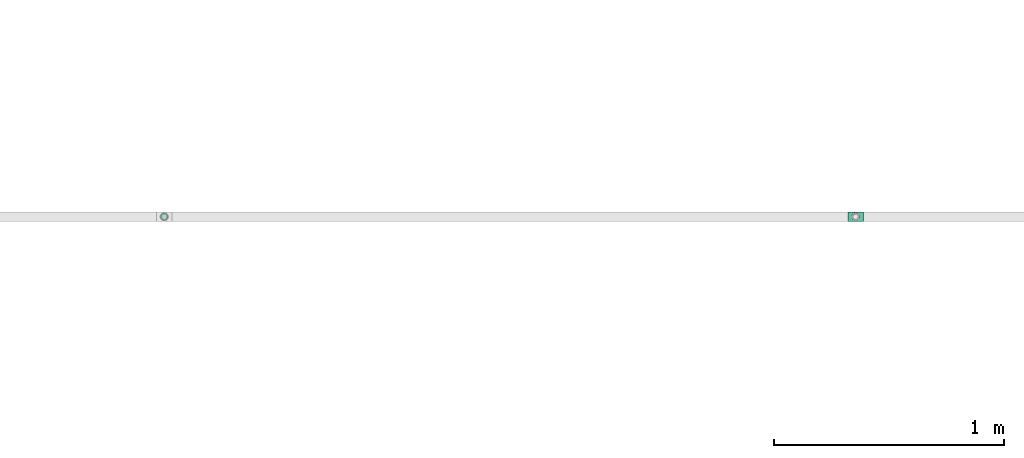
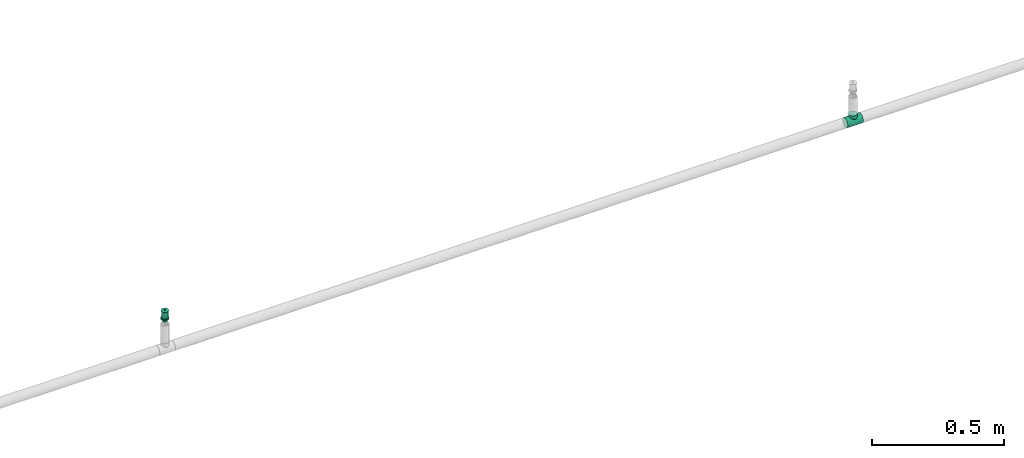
# One storey, part 51 of 94: 1 flow fitting, 1 flow terminal.
"""IFC2X3 building model written with IfcOpenShell, lengths in millimetres."""

from ifc_helpers import new_model, entity, si_unit, converted_unit, derived_unit, direction, frame, origin_with_axes, place, context, subcontext, project, spatial, open_shell, surface_model, source, transform, mapped, type_object, element, save


model = new_model("IFC2X3")

# Units and contexts
model_context = context("Model", 3, precision=0.01, world=frame((0.0, 4.29681676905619e-09, 0.0)), true_north=direction((4.01073788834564e-13, 1.0)))
plan_context = context("Plan", 3, precision=0.01, world=frame((0.0, 4.29681676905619e-09, 0.0)), true_north=direction((4.01073788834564e-13, 1.0)))
body_context = subcontext(model_context, "Body", "Model", "MODEL_VIEW")
ifc_project = project(units=[converted_unit("PLANEANGLEUNIT", "DEGREE", entity("IfcPositiveLengthMeasure", 0.0174532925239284), si_unit("PLANEANGLEUNIT", "RADIAN"), dimensions=[0, 0, 0, 0, 0, 0, 0]), si_unit("AREAUNIT", "SQUARE_METRE"), si_unit("LENGTHUNIT", "METRE", prefix="MILLI"), si_unit("MASSUNIT", "GRAM", prefix="KILO"), si_unit("POWERUNIT", "WATT"), si_unit("PRESSUREUNIT", "PASCAL"), si_unit("FORCEUNIT", "NEWTON", prefix="KILO"), si_unit("ELECTRICCURRENTUNIT", "AMPERE"), si_unit("THERMODYNAMICTEMPERATUREUNIT", "DEGREE_CELSIUS"), si_unit("TIMEUNIT", "SECOND"), si_unit("VOLUMEUNIT", "CUBIC_METRE"), derived_unit("LINEARVELOCITYUNIT", [(si_unit("LENGTHUNIT", "METRE"), 1), (si_unit("TIMEUNIT", "SECOND"), -1)]), derived_unit("VOLUMETRICFLOWRATEUNIT", [(si_unit("VOLUMEUNIT", "CUBIC_METRE"), 1), (si_unit("TIMEUNIT", "SECOND"), -1)]), derived_unit("THERMALTRANSMITTANCEUNIT", [(si_unit("POWERUNIT", "WATT"), 1), (si_unit("THERMODYNAMICTEMPERATUREUNIT", "KELVIN"), -1), (si_unit("AREAUNIT", "SQUARE_METRE"), -1)])], contexts=[model_context, plan_context])

# Site, building, storey
site_placement = place(None, frame((0.0, -4.29681676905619e-09, 0.0), z_axis=(0.0, 0.0, 1.0), x_axis=(1.0, 0.0, 0.0)))
site = spatial("IfcSite", under=ifc_project, at=site_placement, CompositionType="ELEMENT")
building_placement = place(site_placement, frame((0.0, 4.29681676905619e-09, 0.0), z_axis=(0.0, 0.0, 1.0), x_axis=(1.0, 0.0, 0.0)))
building = spatial("IfcBuilding", under=site, at=building_placement, Name="mc-building", CompositionType="ELEMENT")
storey_placement = place(building_placement, frame((0.0, 0.0, 200300.0), z_axis=(0.0, 0.0, 1.0), x_axis=(1.0, 0.0, 0.0)))
storey = spatial("IfcBuildingStorey", under=building, at=storey_placement, Name="Nivå C", CompositionType="ELEMENT", Elevation=200300.0)

# Flow fitting
pipe_fitting_type = type_object("IfcPipeFittingType", Name="magi_pipe_fe_tee_centric_90_NOR", PredefinedType="JUNCTION")
shared_shape_1 = source(origin_with_axes(), body_context, "Body", "SurfaceModel", [
    surface_model("IfcShellBasedSurfaceModel", [(-33.8, 0.0, -21.2), (-33.8, -5.48696, -20.47763), (-33.8, 5.48696, -20.47763), (-33.8, 10.6, -18.35974), (-33.8, 14.99066, -14.99066), (-33.8, -20.47763, 5.48696), (-33.8, 18.35974, -10.6), (-33.8, 10.6, 18.35974), (-33.8, -14.99066, -14.99066), (-33.8, -18.35974, -10.6), (-33.8, -10.6, -18.35974), (-33.8, -20.47763, -5.48696), (-33.8, -21.2, 0.0), (-33.8, 18.35974, 10.6), (-33.8, 20.47763, -5.48696), (-33.8, 20.47763, 5.48696), (-33.8, 21.2, 0.0), (-33.8, 14.99066, 14.99066), (-33.8, 5.48696, 20.47763), (-33.8, 0.0, 21.2), (-33.8, -18.35974, 10.6), (-33.8, -14.99066, 14.99066), (-33.8, -10.6, 18.35974), (-33.8, -5.48696, 20.47763), (33.8, 5.48696, -20.47763), (33.8, -5.48696, -20.47763), (33.8, 0.0, -21.2), (33.8, 14.99066, -14.99066), (33.8, 10.6, -18.35974), (33.8, 18.35974, -10.6), (33.8, 20.47763, -5.48696), (33.8, -21.2, 0.0), (33.8, -10.6, -18.35974), (33.8, -18.35974, -10.6), (33.8, -14.99066, -14.99066), (33.8, -20.47763, -5.48696), (33.8, -20.47763, 5.48696), (33.8, 21.2, 0.0), (33.8, 20.47763, 5.48696), (33.8, 18.35974, 10.6), (33.8, 10.6, 18.35974), (33.8, 14.99066, 14.99066), (33.8, 0.0, 21.2), (33.8, 5.48696, 20.47763), (33.8, -14.99066, 14.99066), (33.8, -18.35974, 10.6), (33.8, -10.6, 18.35974), (33.8, -5.48696, 20.47763), (16.9, -21.2, 0.0), (15.78624, -20.32327, 6.03364), (12.81343, -18.11115, 11.01935), (8.52479, -15.37862, 14.59239), (3.07939, -13.16482, 16.61708), (-16.9, -21.2, 0.0), (-15.78686, -20.32375, 6.032), (-8.52604, -15.37932, 14.59166), (-3.0848, -13.16609, 16.61608), (-12.81602, -18.11299, 11.01634), (3.07939, -13.16482, -16.61708), (12.81343, -18.11115, -11.01935), (8.52479, -15.37862, -14.59239), (15.78624, -20.32327, -6.03364), (-3.0848, -13.16609, -16.61608), (-8.52604, -15.37932, -14.59166), (-12.81602, -18.11299, -11.01634), (-15.78686, -20.32375, -6.032), (4.37404, -31.8, -16.32415), (-16.9, -31.8, 0.0), (0.0, -31.8, -16.9), (14.63583, -31.8, -8.45), (8.45, -31.8, -14.63583), (16.32415, -31.8, -4.37404), (11.9501, -31.8, -11.9501), (-11.9501, -31.8, -11.9501), (-8.45, -31.8, -14.63583), (-4.37404, -31.8, -16.32415), (-14.63583, -31.8, -8.45), (-16.32415, -31.8, -4.37404), (16.9, -31.8, 0.0), (8.45, -31.8, 14.63583), (16.32415, -31.8, 4.37404), (14.63583, -31.8, 8.45), (-8.45, -31.8, 14.63583), (11.9501, -31.8, 11.9501), (4.37404, -31.8, 16.32415), (-16.32415, -31.8, 4.37404), (-11.9501, -31.8, 11.9501), (-14.63583, -31.8, 8.45), (0.0, -31.8, 16.9), (-4.37404, -31.8, 16.32415), (-16.34343, -20.76188, 3.016), (16.34312, -20.76163, 3.01682), (-0.00271, -13.16546, 16.61658), (16.34312, -20.76163, -3.01682), (-0.00271, -13.16546, -16.61658), (-16.34343, -20.76188, -3.016)], [open_shell([[[0, 1, 2]], [[3, 2, 4]], [[5, 2, 1]], [[4, 2, 6]], [[6, 2, 7]], [[8, 9, 10]], [[1, 10, 9]], [[9, 11, 1]], [[12, 1, 11]], [[5, 1, 12]], [[13, 14, 6]], [[13, 15, 16]], [[6, 7, 13]], [[5, 7, 2]], [[17, 13, 7]], [[18, 7, 19]], [[20, 21, 5]], [[22, 5, 21]], [[23, 19, 22]], [[7, 5, 22]], [[22, 19, 7]], [[16, 14, 13]], [[24, 25, 26]], [[27, 24, 28]], [[29, 30, 24]], [[29, 24, 27]], [[31, 24, 30]], [[32, 33, 34]], [[33, 32, 25]], [[33, 31, 35]], [[31, 33, 25]], [[25, 24, 31]], [[30, 36, 31]], [[37, 38, 39]], [[37, 39, 40]], [[37, 40, 36]], [[40, 39, 41]], [[42, 40, 43]], [[36, 44, 45]], [[44, 36, 46]], [[46, 42, 47]], [[46, 36, 40]], [[40, 42, 46]], [[37, 36, 30]], [[31, 36, 48]], [[49, 48, 36]], [[36, 45, 49]], [[45, 44, 50]], [[51, 50, 44]], [[52, 51, 44]], [[44, 46, 52]], [[45, 50, 49]], [[53, 54, 5]], [[5, 12, 53]], [[54, 20, 5]], [[55, 56, 21]], [[20, 57, 21]], [[57, 20, 54]], [[21, 57, 55]], [[56, 22, 21]], [[52, 22, 56]], [[19, 47, 42]], [[23, 46, 47]], [[18, 42, 43]], [[39, 38, 15]], [[17, 40, 41]], [[13, 41, 39]], [[43, 40, 7]], [[16, 38, 37]], [[22, 46, 23]], [[23, 47, 19]], [[18, 19, 42]], [[43, 7, 18]], [[7, 40, 17]], [[13, 17, 41]], [[15, 13, 39]], [[38, 16, 15]], [[46, 22, 52]], [[6, 30, 29]], [[14, 37, 30]], [[4, 29, 27]], [[26, 25, 1]], [[2, 28, 24]], [[0, 24, 26]], [[27, 28, 3]], [[10, 25, 32]], [[16, 37, 14]], [[14, 30, 6]], [[4, 6, 29]], [[27, 3, 4]], [[3, 28, 2]], [[0, 2, 24]], [[1, 0, 26]], [[25, 10, 1]], [[32, 58, 10]], [[34, 59, 60]], [[59, 34, 33]], [[60, 58, 34]], [[34, 58, 32]], [[35, 31, 48]], [[35, 61, 33]], [[61, 35, 48]], [[33, 61, 59]], [[62, 63, 8]], [[8, 64, 9]], [[64, 8, 63]], [[62, 8, 10]], [[65, 53, 11]], [[65, 11, 9]], [[11, 53, 12]], [[65, 9, 64]], [[58, 62, 10]], [[66, 67, 68]], [[69, 66, 70]], [[69, 71, 66]], [[69, 70, 72]], [[67, 66, 71]], [[68, 73, 74]], [[74, 75, 68]], [[76, 67, 77]], [[73, 68, 76]], [[67, 76, 68]], [[71, 78, 67]], [[79, 78, 80]], [[79, 80, 81]], [[82, 67, 79]], [[79, 81, 83]], [[82, 79, 84]], [[85, 86, 87]], [[86, 85, 82]], [[82, 88, 89]], [[85, 67, 82]], [[84, 88, 82]], [[79, 67, 78]], [[85, 90, 67]], [[57, 87, 86]], [[85, 87, 54]], [[86, 82, 55]], [[85, 54, 90]], [[90, 53, 67]], [[54, 87, 57]], [[91, 49, 80]], [[55, 89, 56]], [[55, 57, 86]], [[88, 52, 92]], [[55, 82, 89]], [[52, 88, 84]], [[79, 51, 84]], [[50, 83, 81]], [[83, 51, 79]], [[81, 80, 49]], [[83, 50, 51]], [[51, 52, 84]], [[78, 91, 80]], [[49, 50, 81]], [[91, 78, 48]], [[88, 56, 89]], [[92, 56, 88]], [[71, 93, 78]], [[59, 69, 72]], [[71, 69, 61]], [[72, 70, 60]], [[93, 48, 78]], [[61, 69, 59]], [[60, 66, 58]], [[60, 59, 72]], [[68, 62, 94]], [[60, 70, 66]], [[95, 67, 53]], [[95, 65, 77]], [[71, 61, 93]], [[75, 62, 68]], [[65, 76, 77]], [[73, 76, 64]], [[68, 58, 66]], [[75, 63, 62]], [[63, 75, 74]], [[74, 73, 63]], [[63, 73, 64]], [[64, 76, 65]], [[67, 95, 77]], [[94, 58, 68]]])]),
])
flow_fitting_placement = place(storey_placement, frame((521497.26879, 416298.62756, 2850.0), z_axis=(0.0, -1.0, 0.0), x_axis=(-1.0, 0.0, 0.0)))
element("IfcFlowFitting", 1, at=flow_fitting_placement, inside=storey, type_object=pipe_fitting_type, Name="magi_pipe_fe_tee_centric_90_NOR", context=body_context, shape_type="MappedRepresentation", body=[
    mapped(shared_shape_1, transform((0.0, 0.0, 0.0), scale=1.0)),
])

# Flow terminal
fire_suppression_terminal_type = type_object("IfcFireSuppressionTerminalType", Name="68DGR-STD-STÅENDE", PredefinedType="NOTDEFINED")
shared_shape_2 = source(origin_with_axes(), body_context, "Body", "SurfaceModel", [
    surface_model("IfcShellBasedSurfaceModel", [(12.55704, 3.36465, 21.14766), (13.0, 0.0, 21.14766), (12.55704, -3.36465, 21.14766), (-12.55704, -3.36465, 21.14766), (-11.25833, -6.5, 21.14766), (-11.25833, -6.5, 51.0), (3.36465, -12.55704, 51.0), (3.36465, -12.55704, 21.14766), (6.5, -11.25833, 21.14766), (9.19239, -9.19239, 21.14766), (11.25833, -6.5, 21.14766), (9.19239, -9.19239, 51.0), (6.5, -11.25833, 51.0), (11.25833, -6.5, 51.0), (12.55704, -3.36465, 51.0), (13.0, 0.0, 51.0), (9.19239, 9.19239, 51.0), (11.25833, 6.5, 21.14766), (9.19239, 9.19239, 21.14766), (11.25833, 6.5, 51.0), (12.55704, 3.36465, 51.0), (6.5, 11.25833, 51.0), (6.5, 11.25833, 21.14766), (3.36465, 12.55704, 21.14766), (3.36465, 12.55704, 51.0), (-11.25833, 6.5, 51.0), (-11.25833, 6.5, 21.14766), (-12.55704, 3.36465, 21.14766), (0.0, -2.5, 51.0), (-2.5, 0.0, 51.0), (0.0, 2.5, 51.0), (2.5, 0.0, 51.0), (11.31371, 11.31371, 53.0), (-11.31371, 11.31371, 53.0), (-11.31371, -11.31371, 53.0), (11.31371, -11.31371, 53.0), (1.62635, 1.62635, 51.0), (2.16506, 1.25, 51.0), (1.99186, 1.15, 51.0), (-1.76777, 1.76777, 51.0), (-1.25, 2.16506, 51.0), (-1.62635, 1.62635, 51.0), (1.99186, -1.15, 51.0), (2.16506, -1.25, 51.0), (1.62635, -1.62635, 51.0), (-1.62635, -1.62635, 51.0), (-1.25, -2.16506, 51.0), (-1.76777, -1.76777, 51.0), (0.0, 7.3, 0.0), (1.94114, 7.24444, 0.0), (1.88938, 7.05126, 0.0), (5.16188, 5.16188, 0.0), (6.49519, 3.75, 0.0), (6.32199, 3.65, 0.0), (-5.3033, 5.3033, 0.0), (-3.75, 6.49519, 0.0), (-5.16188, 5.16188, 0.0), (6.32199, -3.65, 0.0), (6.49519, -3.75, 0.0), (5.16188, -5.16188, 0.0), (1.88938, -7.05126, 0.0), (1.94114, -7.24444, 0.0), (0.0, -7.3, 0.0), (-5.16188, -5.16188, 0.0), (-3.75, -6.49519, 0.0), (-5.3033, -5.3033, 0.0), (-3.36465, 12.55704, 51.0), (-6.5, 11.25833, 51.0), (0.0, 13.0, 51.0), (-9.19239, 9.19239, 51.0), (0.0, -13.0, 51.0), (-9.19239, -9.19239, 51.0), (-12.55704, -3.36465, 51.0), (-6.5, -11.25833, 51.0), (-3.36465, -12.55704, 51.0), (-7.5, 0.0, -0.1), (-7.24444, 1.94114, 0.1), (-7.24444, 1.94114, -0.1), (-6.49519, 3.75, 0.1), (-6.49519, 3.75, -0.1), (-3.75, 6.49519, -0.1), (-5.3033, 5.3033, -0.1), (-3.75, 6.49519, 0.1), (-5.3033, 5.3033, 0.1), (-1.94114, 7.24444, -0.1), (-1.94114, 7.24444, 0.1), (-7.5, 0.0, 0.1), (0.0, 7.5, 0.1), (0.0, 7.5, -0.1), (1.94114, 7.24444, 0.1), (1.94114, 7.24444, -0.1), (3.75, 6.49519, 0.1), (3.75, 6.49519, -0.1), (6.49519, 3.75, -0.1), (5.3033, 5.3033, -0.1), (6.49519, 3.75, 0.1), (5.3033, 5.3033, 0.1), (7.24444, 1.94114, -0.1), (7.24444, 1.94114, 0.1), (7.5, 0.0, 0.1), (7.5, 0.0, -0.1), (-7.24444, -1.94114, 0.1), (7.24444, -1.94114, 0.1), (5.3033, -5.3033, 0.1), (6.49519, -3.75, 0.1), (-6.49519, -3.75, 0.1), (0.0, -7.5, 0.1), (1.94114, -7.24444, 0.1), (3.75, -6.49519, 0.1), (-3.75, -6.49519, 0.1), (-1.94114, -7.24444, 0.1), (-5.3033, -5.3033, 0.1), (0.0, -7.5, -0.1), (-6.49519, -3.75, -0.1), (1.94114, -7.24444, -0.1), (3.75, -6.49519, -0.1), (5.3033, -5.3033, -0.1), (7.24444, -1.94114, -0.1), (6.49519, -3.75, -0.1), (-3.75, -6.49519, -0.1), (-5.3033, -5.3033, -0.1), (-1.94114, -7.24444, -0.1), (-7.24444, -1.94114, -0.1), (16.0, 0.0, 53.0), (0.0, -16.0, 53.0), (-16.0, 0.0, 53.0), (0.0, 16.0, 53.0), (0.64705, 2.41481, 57.0), (0.0, 2.5, 57.0), (1.25, 2.16506, 57.0), (-2.5, 0.0, 57.0), (1.76777, 1.76777, 57.0), (2.41481, 0.64705, 57.0), (2.16506, 1.25, 57.0), (-0.64705, 2.41481, 57.0), (-1.25, 2.16506, 57.0), (-1.76777, 1.76777, 57.0), (-2.16506, 1.25, 57.0), (-2.41481, 0.64705, 57.0), (2.5, 0.0, 57.0), (1.76777, -1.76777, 57.0), (2.16506, -1.25, 57.0), (2.41481, -0.64705, 57.0), (-2.41481, -0.64705, 57.0), (0.64705, -2.41481, 57.0), (1.25, -2.16506, 57.0), (0.0, -2.5, 57.0), (-1.76777, -1.76777, 57.0), (-2.16506, -1.25, 57.0), (-1.25, -2.16506, 57.0), (-0.64705, -2.41481, 57.0), (1.15, -1.99186, 51.0), (1.76777, -1.76777, 51.0), (1.25, -2.16506, 51.0), (0.59528, -2.22163, 51.0), (0.0, -2.3, 51.0), (0.64705, -2.41481, 51.0), (2.22163, -0.59528, 51.0), (2.3, 0.0, 51.0), (2.41481, -0.64705, 51.0), (-0.64705, -2.41481, 51.0), (-0.59528, -2.22163, 51.0), (-1.15, -1.99186, 51.0), (-2.16506, -1.25, 51.0), (-1.99186, -1.15, 51.0), (-2.22163, -0.59528, 51.0), (-2.3, 0.0, 51.0), (-2.41481, -0.64705, 51.0), (2.22163, 0.59528, 51.0), (2.41481, 0.64705, 51.0), (1.76777, 1.76777, 51.0), (1.15, 1.99186, 51.0), (1.25, 2.16506, 51.0), (0.59528, 2.22163, 51.0), (0.0, 2.3, 51.0), (0.64705, 2.41481, 51.0), (-1.99186, 1.15, 51.0), (-2.16506, 1.25, 51.0), (-2.41481, 0.64705, 51.0), (-2.22163, 0.59528, 51.0), (-0.64705, 2.41481, 51.0), (-0.59528, 2.22163, 51.0), (-1.15, 1.99186, 51.0), (-2.22163, 0.59528, 56.8), (-1.99186, 1.15, 56.8), (-1.15, 1.99186, 56.8), (-1.62635, 1.62635, 56.8), (-0.59528, 2.22163, 56.8), (-2.3, 0.0, 56.8), (0.0, 2.3, 56.8), (0.59528, 2.22163, 56.8), (1.15, 1.99186, 56.8), (1.99186, 1.15, 56.8), (1.62635, 1.62635, 56.8), (2.22163, 0.59528, 56.8), (2.3, 0.0, 56.8), (2.22163, -0.59528, 56.8), (1.99186, -1.15, 56.8), (1.62635, -1.62635, 56.8), (1.15, -1.99186, 56.8), (0.59528, -2.22163, 56.8), (0.0, -2.3, 56.8), (-1.99186, -1.15, 56.8), (-2.22163, -0.59528, 56.8), (-1.62635, -1.62635, 56.8), (-0.59528, -2.22163, 56.8), (-1.15, -1.99186, 56.8), (8.0, -13.85641, 13.0), (4.1411, -15.45481, 13.0), (0.0, -16.0, 13.0), (-4.1411, -15.45481, 13.0), (15.45481, -4.1411, 13.0), (13.85641, -8.0, 13.0), (11.31371, -11.31371, 13.0), (-16.0, 0.0, 13.0), (-8.0, -13.85641, 13.0), (-11.31371, -11.31371, 13.0), (-13.85641, -8.0, 13.0), (-15.45481, -4.1411, 13.0), (15.45481, 4.1411, 13.0), (4.1411, 15.45481, 13.0), (13.85641, 8.0, 13.0), (8.0, 13.85641, 13.0), (11.31371, 11.31371, 13.0), (-15.45481, 4.1411, 13.0), (-11.31371, 11.31371, 13.0), (-8.0, 13.85641, 13.0), (-13.85641, 8.0, 13.0), (-4.1411, 15.45481, 13.0), (0.0, 16.0, 13.0), (16.0, 0.0, 13.0), (7.05126, 1.88938, 12.8), (1.88938, 7.05126, 12.8), (3.65, 6.32199, 12.8), (6.32199, 3.65, 12.8), (5.16188, 5.16188, 12.8), (7.3, 0.0, 12.8), (0.0, 7.3, 12.8), (-3.65, 6.32199, 12.8), (-1.88938, 7.05126, 12.8), (-5.16188, 5.16188, 12.8), (-7.05126, 1.88938, 12.8), (-6.32199, 3.65, 12.8), (7.05126, -1.88938, 12.8), (0.0, -7.3, 12.8), (6.32199, -3.65, 12.8), (3.65, -6.32199, 12.8), (5.16188, -5.16188, 12.8), (1.88938, -7.05126, 12.8), (-7.3, 0.0, 12.8), (-6.32199, -3.65, 12.8), (-7.05126, -1.88938, 12.8), (-1.88938, -7.05126, 12.8), (-5.16188, -5.16188, 12.8), (-3.65, -6.32199, 12.8), (-7.05126, 1.88938, 0.0), (-7.3, 0.0, 0.0), (-6.32199, 3.65, 0.0), (-3.65, 6.32199, 0.0), (-1.88938, 7.05126, 0.0), (3.65, 6.32199, 0.0), (7.05126, 1.88938, 0.0), (7.3, 0.0, 0.0), (3.75, 6.49519, 13.0), (1.94114, 7.24444, 13.0), (7.5, 0.0, 13.0), (5.3033, 5.3033, 13.0), (7.24444, 1.94114, 13.0), (6.49519, 3.75, 13.0), (-5.3033, 5.3033, 13.0), (-7.24444, -1.94114, 13.0), (-1.94114, 7.24444, 13.0), (-3.75, 6.49519, 13.0), (0.0, 7.5, 13.0), (-6.49519, 3.75, 13.0), (-7.24444, 1.94114, 13.0), (7.24444, -1.94114, 13.0), (5.3033, -5.3033, 13.0), (6.49519, -3.75, 13.0), (-6.49519, -3.75, 13.0), (0.0, -7.5, 13.0), (1.94114, -7.24444, 13.0), (3.75, -6.49519, 13.0), (-7.5, 0.0, 13.0), (-3.75, -6.49519, 13.0), (-1.94114, -7.24444, 13.0), (-5.3033, -5.3033, 13.0), (3.65, -6.32199, 0.0), (5.3033, -5.3033, 0.0), (3.75, -6.49519, 0.0), (0.0, -7.5, 0.0), (7.05126, -1.88938, 0.0), (7.24444, -1.94114, 0.0), (7.5, 0.0, 0.0), (-1.94114, -7.24444, 0.0), (-1.88938, -7.05126, 0.0), (-3.65, -6.32199, 0.0), (-6.49519, -3.75, 0.0), (-6.32199, -3.65, 0.0), (-7.05126, -1.88938, 0.0), (-7.24444, -1.94114, 0.0), (-7.5, 0.0, 0.0), (7.24444, 1.94114, 0.0), (5.3033, 5.3033, 0.0), (3.75, 6.49519, 0.0), (0.0, 7.5, 0.0), (-6.49519, 3.75, 0.0), (-7.24444, 1.94114, 0.0), (-1.94114, 7.24444, 0.0), (-12.55704, 3.36465, 51.0), (-13.0, 0.0, 51.0), (0.0, -13.0, 21.14766), (-3.36465, -12.55704, 21.14766), (-6.5, -11.25833, 21.14766), (-9.19239, -9.19239, 21.14766), (-13.0, 0.0, 21.14766), (-9.19239, 9.19239, 21.14766), (-6.5, 11.25833, 21.14766), (-3.36465, 12.55704, 21.14766), (0.0, 13.0, 21.14766), (11.31371, 11.31371, 19.0), (8.0, 13.85641, 19.0), (4.1411, 15.45481, 19.0), (-8.0, 13.85641, 19.0), (16.0, 0.0, 19.0), (15.45481, 4.1411, 19.0), (13.85641, 8.0, 19.0), (-4.1411, 15.45481, 19.0), (0.0, 16.0, 19.0), (-11.31371, 11.31371, 19.0), (-13.85641, 8.0, 19.0), (-15.45481, 4.1411, 19.0), (15.45481, -4.1411, 19.0), (11.31371, -11.31371, 19.0), (13.85641, -8.0, 19.0), (-16.0, 0.0, 19.0), (0.0, -16.0, 19.0), (4.1411, -15.45481, 19.0), (8.0, -13.85641, 19.0), (-13.85641, -8.0, 19.0), (-11.31371, -11.31371, 19.0), (-15.45481, -4.1411, 19.0), (-8.0, -13.85641, 19.0), (-4.1411, -15.45481, 19.0)], [open_shell([[[0, 1, 2]], [[3, 4, 5]], [[6, 7, 8]], [[9, 10, 11]], [[9, 11, 12]], [[10, 13, 11]], [[14, 13, 2]], [[1, 15, 14]], [[16, 17, 18]], [[0, 19, 20]], [[20, 15, 1]], [[21, 16, 18]], [[22, 23, 24]], [[16, 19, 17]], [[25, 26, 27]], [[28, 29, 30]], [[30, 31, 28]], [[31, 30, 32]], [[33, 30, 29]], [[29, 28, 34]], [[35, 28, 31]], [[36, 37, 38]], [[39, 40, 41]], [[42, 43, 44]], [[45, 46, 47]], [[48, 49, 50]], [[51, 52, 53]], [[54, 55, 56]], [[57, 58, 59]], [[60, 61, 62]], [[63, 64, 65]], [[66, 67, 68]], [[67, 24, 68]], [[69, 25, 67]], [[15, 20, 14]], [[70, 6, 12]], [[5, 71, 72]], [[73, 74, 71]], [[72, 71, 74]], [[75, 76, 77]], [[77, 78, 79]], [[80, 81, 82]], [[83, 81, 79]], [[84, 80, 85]], [[76, 78, 77]], [[75, 86, 76]], [[80, 82, 85]], [[82, 81, 83]], [[79, 78, 83]], [[84, 85, 87]], [[87, 88, 84]], [[88, 89, 90]], [[90, 91, 92]], [[93, 94, 95]], [[96, 94, 92]], [[97, 93, 98]], [[91, 96, 92]], [[90, 89, 91]], [[97, 98, 99]], [[98, 93, 95]], [[94, 96, 95]], [[97, 99, 100]], [[87, 89, 88]], [[91, 89, 99]], [[96, 91, 98]], [[91, 99, 98]], [[95, 96, 98]], [[89, 83, 101]], [[85, 82, 87]], [[83, 87, 82]], [[78, 76, 83]], [[89, 87, 83]], [[76, 101, 83]], [[102, 99, 89]], [[103, 104, 102]], [[89, 105, 103]], [[103, 106, 107]], [[108, 103, 107]], [[106, 103, 105]], [[89, 101, 105]], [[101, 76, 86]], [[109, 110, 111]], [[105, 111, 110]], [[106, 105, 110]], [[103, 102, 89]], [[112, 113, 114]], [[115, 114, 116]], [[117, 118, 116]], [[113, 116, 114]], [[116, 113, 117]], [[119, 120, 121]], [[113, 121, 120]], [[121, 113, 112]], [[113, 122, 117]], [[75, 77, 122]], [[100, 117, 122]], [[100, 81, 97]], [[93, 97, 90]], [[90, 92, 94]], [[93, 90, 94]], [[90, 97, 81]], [[79, 81, 77]], [[77, 81, 122]], [[84, 88, 80]], [[81, 80, 88]], [[81, 88, 90]], [[100, 122, 81]], [[100, 102, 117]], [[117, 104, 118]], [[115, 116, 108]], [[103, 116, 118]], [[114, 115, 107]], [[102, 104, 117]], [[100, 99, 102]], [[115, 108, 107]], [[108, 116, 103]], [[118, 104, 103]], [[114, 107, 106]], [[106, 112, 114]], [[112, 110, 121]], [[121, 109, 119]], [[113, 120, 105]], [[111, 120, 119]], [[122, 113, 101]], [[109, 111, 119]], [[121, 110, 109]], [[122, 101, 86]], [[101, 113, 105]], [[120, 111, 105]], [[122, 86, 75]], [[106, 110, 112]], [[31, 123, 35]], [[35, 124, 28]], [[124, 34, 28]], [[29, 34, 125]], [[33, 32, 126]], [[33, 125, 124]], [[124, 32, 33]], [[124, 35, 123]], [[124, 125, 34]], [[123, 32, 124]], [[29, 125, 33]], [[33, 126, 30]], [[126, 32, 30]], [[31, 32, 123]], [[127, 128, 129]], [[129, 130, 131]], [[132, 131, 130]], [[133, 131, 132]], [[130, 129, 128]], [[134, 135, 128]], [[136, 128, 135]], [[137, 138, 136]], [[128, 136, 130]], [[138, 130, 136]], [[139, 132, 130]], [[140, 141, 142]], [[143, 140, 139]], [[144, 140, 143]], [[145, 140, 144]], [[146, 144, 147]], [[139, 130, 143]], [[143, 148, 144]], [[149, 150, 147]], [[144, 148, 147]], [[146, 147, 150]], [[140, 142, 139]], [[151, 152, 153]], [[154, 151, 153]], [[155, 154, 156]], [[153, 156, 154]], [[28, 155, 156]], [[44, 152, 151]], [[157, 158, 159]], [[31, 159, 158]], [[43, 157, 159]], [[152, 44, 43]], [[157, 43, 42]], [[160, 161, 28]], [[161, 155, 28]], [[162, 161, 160]], [[160, 46, 162]], [[162, 46, 45]], [[47, 163, 164]], [[165, 164, 163]], [[45, 47, 164]], [[166, 165, 167]], [[163, 167, 165]], [[29, 166, 167]], [[168, 169, 31]], [[38, 169, 168]], [[169, 38, 37]], [[170, 37, 36]], [[171, 172, 170]], [[173, 172, 171]], [[174, 175, 173]], [[172, 173, 175]], [[30, 175, 174]], [[170, 36, 171]], [[39, 176, 177]], [[41, 176, 39]], [[178, 177, 176]], [[178, 179, 29]], [[176, 179, 178]], [[179, 166, 29]], [[180, 30, 181]], [[182, 180, 181]], [[182, 41, 40]], [[180, 182, 40]], [[181, 30, 174]], [[31, 158, 168]], [[29, 138, 178]], [[178, 137, 177]], [[40, 39, 135]], [[136, 39, 177]], [[180, 40, 134]], [[138, 137, 178]], [[29, 130, 138]], [[40, 135, 134]], [[135, 39, 136]], [[177, 137, 136]], [[180, 134, 128]], [[128, 30, 180]], [[30, 127, 175]], [[175, 129, 172]], [[37, 170, 133]], [[131, 170, 172]], [[169, 37, 132]], [[129, 131, 172]], [[175, 127, 129]], [[169, 132, 139]], [[132, 37, 133]], [[170, 131, 133]], [[169, 139, 31]], [[128, 127, 30]], [[179, 183, 166]], [[176, 184, 179]], [[185, 41, 182]], [[176, 41, 186]], [[187, 182, 181]], [[179, 184, 183]], [[183, 188, 166]], [[187, 185, 182]], [[186, 41, 185]], [[186, 184, 176]], [[189, 187, 181]], [[181, 174, 189]], [[173, 190, 174]], [[171, 191, 173]], [[192, 36, 38]], [[171, 36, 193]], [[194, 38, 168]], [[171, 193, 191]], [[191, 190, 173]], [[195, 194, 168]], [[192, 38, 194]], [[192, 193, 36]], [[158, 195, 168]], [[174, 190, 189]], [[31, 142, 159]], [[159, 141, 43]], [[153, 152, 145]], [[140, 152, 43]], [[156, 153, 144]], [[142, 141, 159]], [[31, 139, 142]], [[153, 145, 144]], [[145, 152, 140]], [[43, 141, 140]], [[156, 144, 146]], [[146, 28, 156]], [[28, 150, 160]], [[160, 149, 46]], [[163, 47, 148]], [[147, 47, 46]], [[167, 163, 143]], [[149, 147, 46]], [[160, 150, 149]], [[167, 143, 130]], [[143, 163, 148]], [[47, 147, 148]], [[167, 130, 29]], [[146, 150, 28]], [[190, 191, 193]], [[190, 193, 195]], [[194, 195, 193]], [[194, 193, 192]], [[190, 195, 186]], [[189, 185, 187]], [[185, 189, 186]], [[186, 183, 184]], [[186, 189, 190]], [[186, 196, 183]], [[186, 195, 196]], [[196, 197, 198]], [[196, 198, 199]], [[199, 200, 201]], [[199, 201, 196]], [[196, 201, 202]], [[188, 202, 203]], [[183, 202, 188]], [[204, 205, 206]], [[205, 204, 202]], [[201, 205, 202]], [[202, 183, 196]], [[157, 196, 158]], [[42, 197, 157]], [[199, 44, 151]], [[42, 44, 198]], [[200, 151, 154]], [[157, 197, 196]], [[196, 195, 158]], [[200, 199, 151]], [[198, 44, 199]], [[198, 197, 42]], [[201, 200, 154]], [[154, 155, 201]], [[161, 205, 155]], [[162, 206, 161]], [[202, 45, 164]], [[162, 45, 204]], [[203, 164, 165]], [[162, 204, 206]], [[206, 205, 161]], [[188, 203, 165]], [[202, 164, 203]], [[202, 204, 45]], [[166, 188, 165]], [[155, 205, 201]], [[207, 208, 209]], [[207, 209, 210]], [[211, 212, 213]], [[213, 207, 214]], [[211, 213, 214]], [[215, 216, 210]], [[217, 210, 216]], [[217, 218, 210]], [[218, 207, 210]], [[218, 214, 207]], [[214, 219, 211]], [[220, 219, 214]], [[221, 219, 220]], [[220, 222, 223]], [[221, 220, 223]], [[214, 224, 220]], [[225, 226, 227]], [[224, 227, 226]], [[228, 229, 226]], [[220, 224, 226]], [[226, 229, 220]], [[219, 230, 211]], [[231, 232, 233]], [[234, 233, 235]], [[231, 236, 232]], [[231, 233, 234]], [[232, 236, 237]], [[237, 238, 239]], [[238, 237, 240]], [[240, 241, 242]], [[240, 237, 236]], [[236, 241, 240]], [[236, 243, 241]], [[244, 243, 245]], [[246, 245, 247]], [[246, 248, 244]], [[246, 244, 245]], [[243, 244, 249]], [[249, 250, 251]], [[250, 249, 252]], [[253, 252, 254]], [[252, 253, 250]], [[249, 244, 252]], [[243, 249, 241]], [[255, 241, 256]], [[257, 242, 255]], [[238, 56, 258]], [[257, 56, 240]], [[239, 258, 259]], [[255, 242, 241]], [[241, 249, 256]], [[239, 238, 258]], [[240, 56, 238]], [[240, 242, 257]], [[237, 239, 259]], [[259, 48, 237]], [[50, 232, 48]], [[260, 233, 50]], [[234, 51, 53]], [[260, 51, 235]], [[231, 53, 261]], [[260, 235, 233]], [[233, 232, 50]], [[236, 231, 261]], [[234, 53, 231]], [[234, 235, 51]], [[262, 236, 261]], [[48, 232, 237]], [[263, 264, 265]], [[266, 263, 267]], [[263, 265, 267]], [[268, 266, 267]], [[264, 269, 270]], [[271, 272, 273]], [[269, 273, 272]], [[274, 275, 269]], [[264, 273, 269]], [[275, 270, 269]], [[276, 265, 264]], [[277, 278, 276]], [[264, 279, 277]], [[277, 280, 281]], [[282, 277, 281]], [[280, 277, 279]], [[264, 270, 279]], [[270, 275, 283]], [[284, 285, 286]], [[279, 286, 285]], [[280, 279, 285]], [[277, 276, 264]], [[287, 288, 289]], [[60, 287, 289]], [[290, 62, 61]], [[289, 61, 60]], [[59, 288, 287]], [[291, 262, 292]], [[293, 292, 262]], [[58, 291, 292]], [[288, 59, 58]], [[291, 58, 57]], [[294, 295, 290]], [[296, 295, 294]], [[294, 64, 296]], [[64, 63, 296]], [[295, 62, 290]], [[65, 297, 298]], [[299, 298, 297]], [[63, 65, 298]], [[256, 299, 300]], [[297, 300, 299]], [[301, 256, 300]], [[261, 302, 293]], [[53, 302, 261]], [[302, 53, 52]], [[303, 52, 51]], [[260, 304, 303]], [[50, 304, 260]], [[304, 50, 49]], [[305, 49, 48]], [[303, 51, 260]], [[54, 257, 306]], [[56, 257, 54]], [[307, 306, 257]], [[307, 255, 301]], [[257, 255, 307]], [[255, 256, 301]], [[308, 305, 259]], [[258, 308, 259]], [[55, 258, 56]], [[308, 258, 55]], [[259, 305, 48]], [[293, 262, 261]], [[301, 275, 307]], [[307, 274, 306]], [[55, 54, 272]], [[269, 54, 306]], [[308, 55, 271]], [[275, 274, 307]], [[301, 283, 275]], [[55, 272, 271]], [[272, 54, 269]], [[306, 274, 269]], [[308, 271, 273]], [[273, 305, 308]], [[305, 264, 49]], [[49, 263, 304]], [[52, 303, 268]], [[266, 303, 304]], [[302, 52, 267]], [[263, 266, 304]], [[49, 264, 263]], [[302, 267, 265]], [[267, 52, 268]], [[303, 266, 268]], [[302, 265, 293]], [[273, 264, 305]], [[293, 276, 292]], [[292, 278, 58]], [[289, 288, 282]], [[277, 288, 58]], [[61, 289, 281]], [[276, 278, 292]], [[293, 265, 276]], [[289, 282, 281]], [[282, 288, 277]], [[58, 278, 277]], [[61, 281, 280]], [[280, 290, 61]], [[290, 285, 294]], [[294, 284, 64]], [[297, 65, 279]], [[286, 65, 64]], [[300, 297, 270]], [[284, 286, 64]], [[294, 285, 284]], [[300, 270, 283]], [[270, 297, 279]], [[65, 286, 279]], [[300, 283, 301]], [[280, 285, 290]], [[291, 243, 262]], [[57, 245, 291]], [[246, 59, 287]], [[57, 59, 247]], [[248, 287, 60]], [[291, 245, 243]], [[243, 236, 262]], [[248, 246, 287]], [[247, 59, 246]], [[247, 245, 57]], [[244, 248, 60]], [[60, 62, 244]], [[295, 252, 62]], [[296, 254, 295]], [[250, 63, 298]], [[296, 63, 253]], [[251, 298, 299]], [[296, 253, 254]], [[254, 252, 295]], [[249, 251, 299]], [[250, 298, 251]], [[250, 253, 63]], [[256, 249, 299]], [[62, 252, 244]], [[16, 21, 24]], [[20, 16, 24]], [[24, 67, 72]], [[19, 16, 20]], [[24, 72, 20]], [[25, 72, 67]], [[309, 310, 25]], [[11, 13, 14]], [[72, 11, 20]], [[74, 12, 11]], [[12, 74, 70]], [[72, 25, 310]], [[72, 74, 11]], [[11, 14, 20]], [[8, 7, 311]], [[8, 311, 312]], [[2, 10, 9]], [[3, 9, 8]], [[3, 26, 9]], [[313, 314, 312]], [[3, 312, 314]], [[4, 3, 314]], [[3, 8, 312]], [[315, 26, 3]], [[2, 9, 26]], [[0, 2, 26]], [[17, 0, 18]], [[23, 22, 18]], [[0, 23, 18]], [[23, 0, 26]], [[316, 317, 26]], [[26, 315, 27]], [[318, 319, 317]], [[23, 26, 317]], [[23, 317, 319]], [[316, 26, 25]], [[318, 317, 67]], [[69, 317, 316]], [[319, 318, 66]], [[310, 309, 315]], [[27, 315, 309]], [[25, 27, 309]], [[25, 69, 316]], [[317, 69, 67]], [[67, 66, 318]], [[66, 68, 319]], [[22, 21, 18]], [[0, 17, 19]], [[1, 0, 20]], [[68, 24, 23]], [[24, 21, 22]], [[319, 68, 23]], [[1, 14, 2]], [[2, 13, 10]], [[6, 311, 7]], [[6, 8, 12]], [[12, 8, 9]], [[6, 70, 311]], [[313, 312, 74]], [[313, 73, 314]], [[71, 4, 314]], [[315, 3, 72]], [[70, 74, 312]], [[74, 73, 313]], [[73, 71, 314]], [[71, 5, 4]], [[3, 5, 72]], [[72, 310, 315]], [[311, 70, 312]], [[320, 321, 322]], [[320, 322, 323]], [[320, 324, 325]], [[326, 320, 325]], [[324, 320, 323]], [[327, 323, 328]], [[323, 322, 328]], [[329, 330, 323]], [[331, 323, 330]], [[323, 331, 324]], [[331, 332, 324]], [[333, 334, 332]], [[335, 333, 331]], [[336, 337, 338]], [[335, 338, 333]], [[338, 335, 336]], [[339, 340, 341]], [[335, 341, 340]], [[342, 343, 340]], [[335, 340, 343]], [[343, 336, 335]], [[332, 331, 333]], [[214, 331, 224]], [[224, 330, 227]], [[226, 225, 323]], [[329, 225, 227]], [[228, 226, 327]], [[331, 330, 224]], [[214, 335, 331]], [[226, 323, 327]], [[323, 225, 329]], [[227, 330, 329]], [[228, 327, 328]], [[328, 229, 228]], [[229, 322, 220]], [[220, 321, 222]], [[221, 223, 326]], [[320, 223, 222]], [[219, 221, 325]], [[321, 320, 222]], [[220, 322, 321]], [[219, 325, 324]], [[325, 221, 326]], [[223, 320, 326]], [[219, 324, 230]], [[328, 322, 229]], [[230, 332, 211]], [[211, 334, 212]], [[207, 213, 338]], [[333, 213, 212]], [[208, 207, 337]], [[332, 334, 211]], [[230, 324, 332]], [[207, 338, 337]], [[338, 213, 333]], [[212, 334, 333]], [[208, 337, 336]], [[336, 209, 208]], [[209, 343, 210]], [[210, 342, 215]], [[217, 216, 339]], [[340, 216, 215]], [[218, 217, 341]], [[342, 340, 215]], [[210, 343, 342]], [[218, 341, 335]], [[341, 217, 339]], [[216, 340, 339]], [[218, 335, 214]], [[336, 343, 209]]])]),
])
flow_terminal_placement = place(storey_placement, frame((518497.26879, 416298.62756, 2972.0), z_axis=(0.0, 0.0, 1.0), x_axis=(-1.0, 0.0, 0.0)))
element("IfcFlowTerminal", 2, at=flow_terminal_placement, inside=storey, type_object=fire_suppression_terminal_type, Name="68DGR-STD-STÅENDE", context=body_context, shape_type="MappedRepresentation", body=[
    mapped(shared_shape_2, transform((0.0, 0.0, 0.0), scale=1.0)),
])

save(model, "model.ifc")
